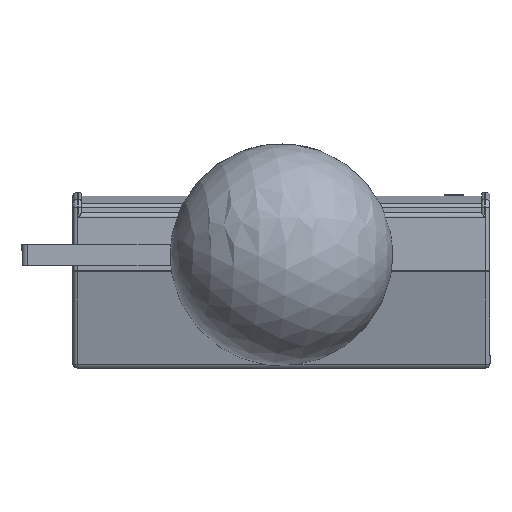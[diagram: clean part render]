
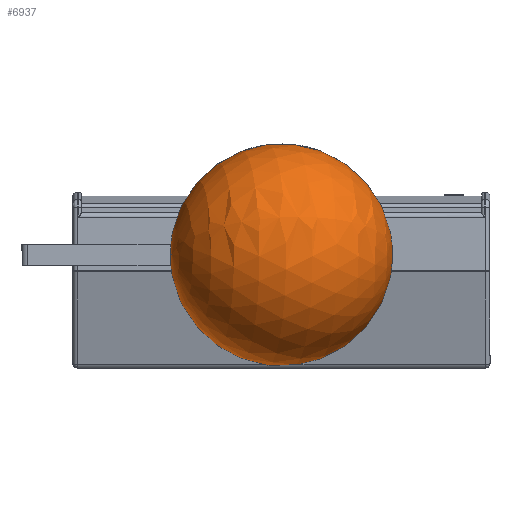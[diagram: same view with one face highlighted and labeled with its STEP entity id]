
A CAD part, left-side view. The second image highlights one B-rep face of the part: STEP entity #6937.
In plain terms, the highlighted spherical face has radius 157.25 mm.
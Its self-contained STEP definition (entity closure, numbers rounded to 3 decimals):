
#6567 = EDGE_CURVE ( 'NONE', #6568, #6569, #14807, .T. ) ;
#6568 = VERTEX_POINT ( 'NONE', #14801 ) ;
#6569 = VERTEX_POINT ( 'NONE', #14800 ) ;
#6883 = EDGE_CURVE ( 'NONE', #6569, #6568, #15725, .T. ) ;
#6886 = EDGE_LOOP ( 'NONE', ( #6938, #6939 ) ) ;
#6937 = ADVANCED_FACE ( 'NONE', ( #15807 ), #15806, .T. ) ;
#6938 = ORIENTED_EDGE ( 'NONE', *, *, #6883, .T. ) ;
#6939 = ORIENTED_EDGE ( 'NONE', *, *, #6567, .T. ) ;
#14800 = CARTESIAN_POINT ( 'NONE',  ( -29., 65., 283. ) ) ;
#14801 = CARTESIAN_POINT ( 'NONE',  ( -29., 115., 283. ) ) ;
#14802 = DIRECTION ( 'NONE',  ( 0., -1., 0. ) ) ;
#14803 = DIRECTION ( 'NONE',  ( -1., 0., 0. ) ) ;
#14804 = CARTESIAN_POINT ( 'NONE',  ( -29., 90., 283. ) ) ;
#14805 = AXIS2_PLACEMENT_3D ( 'NONE', #14804, #14803, #14802 ) ;
#14807 = CIRCLE ( 'NONE', #14805, 25. ) ;
#15719 = DIRECTION ( 'NONE',  ( 0., -1., 0. ) ) ;
#15720 = DIRECTION ( 'NONE',  ( -1., 0., 0. ) ) ;
#15721 = CARTESIAN_POINT ( 'NONE',  ( -29., 90., 283. ) ) ;
#15722 = AXIS2_PLACEMENT_3D ( 'NONE', #15721, #15720, #15719 ) ;
#15725 = CIRCLE ( 'NONE', #15722, 25. ) ;
#15801 = DIRECTION ( 'NONE',  ( 0.644, 0.758, 0.105 ) ) ;
#15802 = DIRECTION ( 'NONE',  ( 0.162, 0., -0.987 ) ) ;
#15803 = AXIS2_PLACEMENT_3D ( 'NONE', #15805, #15802, #15801 ) ;
#15805 = CARTESIAN_POINT ( 'NONE',  ( -184.25, 90., 283. ) ) ;
#15806 = SPHERICAL_SURFACE ( 'NONE', #15803, 157.25 ) ;
#15807 = FACE_OUTER_BOUND ( 'NONE', #6886, .T. ) ;
